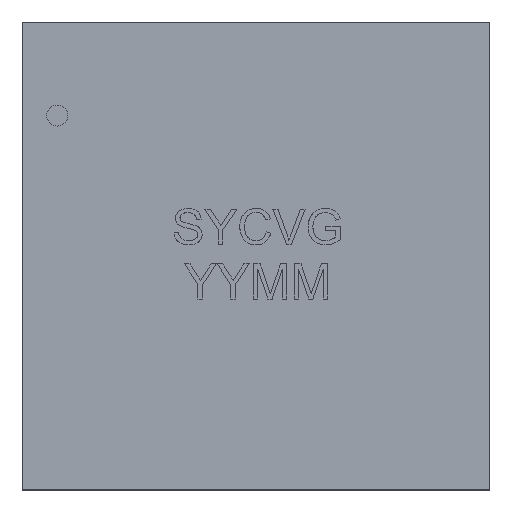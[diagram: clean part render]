
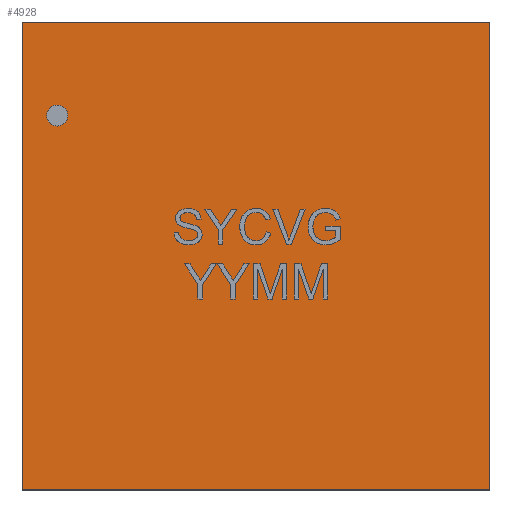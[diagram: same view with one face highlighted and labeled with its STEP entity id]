
A CAD part, top view. The second image highlights one B-rep face of the part: STEP entity #4928.
In plain terms, the highlighted planar face has unit normal (0, 0, 1).
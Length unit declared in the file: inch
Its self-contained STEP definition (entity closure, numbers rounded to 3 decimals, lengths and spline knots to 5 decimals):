
#479=FACE_OUTER_BOUND('',#773,.T.);
#773=EDGE_LOOP('',(#3648,#3649,#3650,#3651));
#1175=LINE('',#6852,#1705);
#1178=LINE('',#6858,#1708);
#1181=LINE('',#6864,#1711);
#1184=LINE('',#6868,#1714);
#1705=VECTOR('',#5850,0.3937);
#1708=VECTOR('',#5855,0.3937);
#1711=VECTOR('',#5860,0.3937);
#1714=VECTOR('',#5865,0.3937);
#2162=VERTEX_POINT('',#6849);
#2163=VERTEX_POINT('',#6851);
#2165=VERTEX_POINT('',#6857);
#2167=VERTEX_POINT('',#6863);
#2707=EDGE_CURVE('',#2163,#2162,#1175,.T.);
#2710=EDGE_CURVE('',#2165,#2163,#1178,.T.);
#2713=EDGE_CURVE('',#2167,#2165,#1181,.T.);
#2716=EDGE_CURVE('',#2162,#2167,#1184,.T.);
#3648=ORIENTED_EDGE('',*,*,#2716,.T.);
#3649=ORIENTED_EDGE('',*,*,#2713,.T.);
#3650=ORIENTED_EDGE('',*,*,#2710,.T.);
#3651=ORIENTED_EDGE('',*,*,#2707,.T.);
#4723=PLANE('',#5300);
#4928=ADVANCED_FACE('',(#479),#4723,.T.);
#5300=AXIS2_PLACEMENT_3D('',#6869,#5866,#5867);
#5850=DIRECTION('',(-1.,0.,0.));
#5855=DIRECTION('',(0.,1.,0.));
#5860=DIRECTION('',(1.,0.,0.));
#5865=DIRECTION('',(0.,-1.,0.));
#5866=DIRECTION('center_axis',(0.,0.,1.));
#5867=DIRECTION('ref_axis',(1.,0.,0.));
#6849=CARTESIAN_POINT('',(0.,0.4,0.055));
#6851=CARTESIAN_POINT('',(0.4,0.4,0.055));
#6852=CARTESIAN_POINT('',(0.4,0.4,0.055));
#6857=CARTESIAN_POINT('',(0.4,0.,0.055));
#6858=CARTESIAN_POINT('',(0.4,0.,0.055));
#6863=CARTESIAN_POINT('',(0.,0.,0.055));
#6864=CARTESIAN_POINT('',(0.,0.,0.055));
#6868=CARTESIAN_POINT('',(0.,0.4,0.055));
#6869=CARTESIAN_POINT('Origin',(0.2,0.2,0.055));
